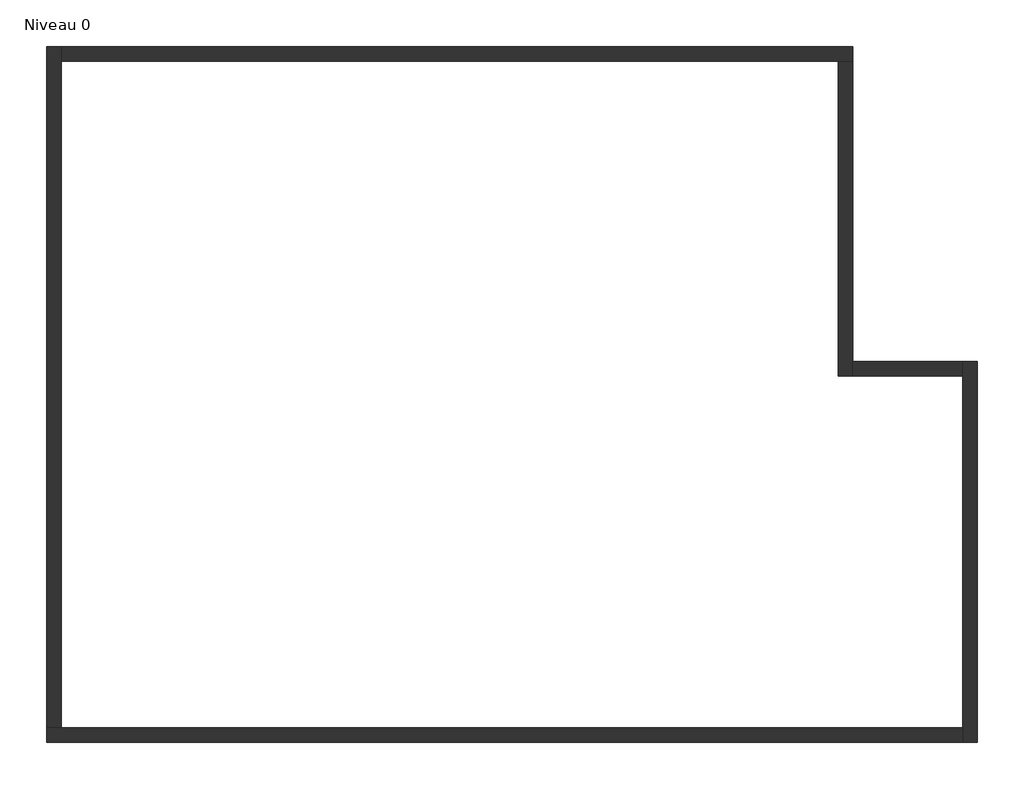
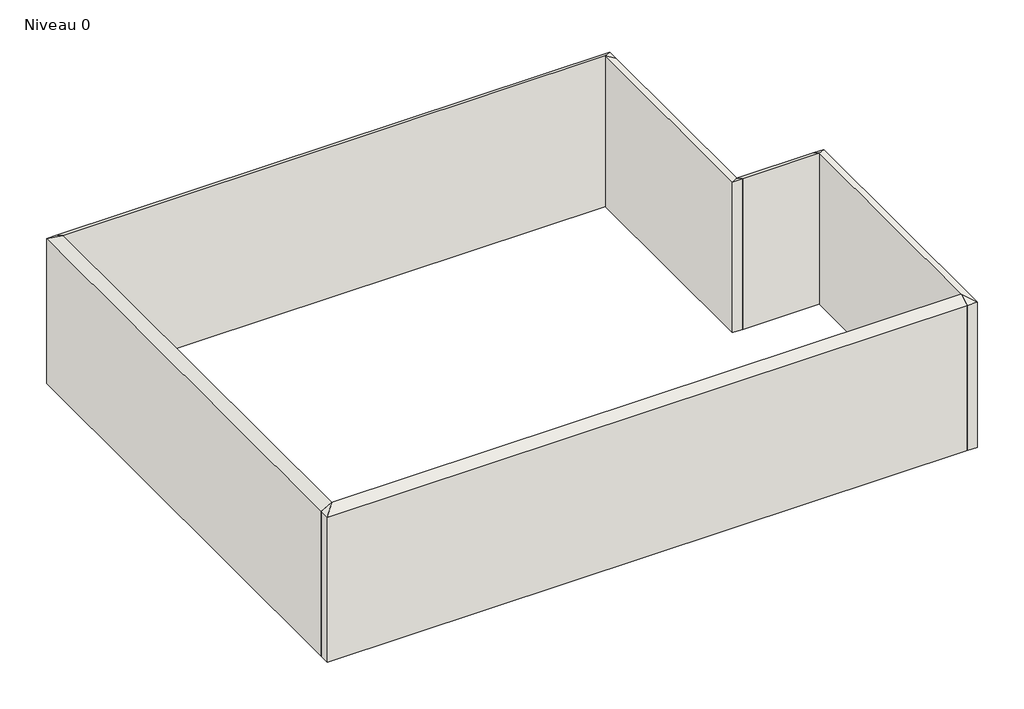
# One storey: 6 walls.
"""IFC4 building model written with IfcOpenShell, lengths in millimetres."""

from ifc_helpers import new_model, si_unit, frame, origin, place, context, project, spatial, polyline, outline, extrude, faceted_brep, element, save

model = new_model("IFC4")

# Units and contexts
model_context = context("Model", 3, world=origin())
ifc_project = project(units=[si_unit("LENGTHUNIT", "METRE", prefix="MILLI")], contexts=[model_context])

# Site, building, storey
site = spatial("IfcSite", under=ifc_project)
building = spatial("IfcBuilding", under=site)
storey = spatial("IfcBuildingStorey", under=building, Name="Niveau 0", Elevation=0.0)

# Walls
placement = place(None, origin())
element("IfcWall", 1, ObjectType="Générique - Ext. 200 mm", at=placement, inside=storey, context=model_context, shape_type="Brep", body=[
    faceted_brep([(-12601.7237534, -2962.5958127, 0.0), (-101.7237534, -2962.5958127, 0.0), (-101.7237534, -2962.5958127, 3000.0), (-12601.7237534, -2962.5958127, 3000.0), (-12601.7237534, -2762.5958127, 0.0), (-12601.7237534, -2762.5958127, 3000.0), (-12401.7237534, -2762.5958127, 3115.4700538), (-101.7237534, -2762.5958127, 3115.4700538), (-101.7237534, -2762.5958127, 0.0), (-12401.7237534, -2762.5958127, 0.0)], [[[0, 1, 2, 3]], [[4, 5, 6, 7, 8, 9]], [[1, 0, 4, 9, 8]], [[0, 3, 5, 4]], [[2, 1, 8, 7]], [[3, 2, 7, 6]], [[6, 5, 3]]]),
])
element("IfcWall", 2, ObjectType="Générique - Ext. 200 mm", at=placement, inside=storey, context=model_context, shape_type="Brep", body=[
    faceted_brep([(-12601.7237534, 6537.4041873, 0.0), (-12601.7237534, -2762.5958127, 0.0), (-12601.7237534, -2762.5958127, 3000.0), (-12601.7237534, 6537.4041873, 3000.0), (-12401.7237534, 6537.4041873, 0.0), (-12401.7237534, 6537.4041873, 3000.0), (-12401.7237534, 6337.4041873, 3115.4700538), (-12401.7237534, -2762.5958127, 3115.4700538), (-12401.7237534, -2762.5958127, 0.0), (-12401.7237534, 6337.4041873, 0.0)], [[[0, 1, 2, 3]], [[4, 5, 6, 7, 8, 9]], [[1, 0, 4, 9, 8]], [[0, 3, 5, 4]], [[2, 1, 8, 7]], [[3, 2, 7, 6]], [[6, 5, 3]]]),
])
element("IfcWall", 3, ObjectType="Générique - Ext. 200 mm", at=placement, inside=storey, context=model_context, shape_type="Brep", body=[
    faceted_brep([(-1601.7237534, 6537.4041873, 0.0), (-12401.7237534, 6537.4041873, 0.0), (-12401.7237534, 6537.4041873, 3000.0), (-1601.7237534, 6537.4041873, 3000.0), (-1601.7237534, 6337.4041873, 0.0), (-1601.7237534, 6337.4041873, 3000.0), (-1801.7237534, 6337.4041873, 3115.4700538), (-12401.7237534, 6337.4041873, 3115.4700538), (-12401.7237534, 6337.4041873, 0.0), (-1801.7237534, 6337.4041873, 0.0)], [[[0, 1, 2, 3]], [[4, 5, 6, 7, 8, 9]], [[1, 0, 4, 9, 8]], [[2, 1, 8, 7]], [[0, 3, 5, 4]], [[3, 2, 7, 6]], [[6, 5, 3]]]),
])
element("IfcWall", 4, ObjectType="Générique - Ext. 200 mm", at=placement, inside=storey, context=model_context, shape_type="Brep", body=[
    faceted_brep([(98.2762466, -2962.5958127, 0.0), (98.2762466, 2237.4041873, 0.0), (98.2762466, 2237.4041873, 3000.0), (98.2762466, -2962.5958127, 3000.0), (-101.7237534, -2962.5958127, 0.0), (-101.7237534, -2962.5958127, 3000.0), (-101.7237534, -2762.5958127, 3115.4700538), (-101.7237534, 2037.4041873, 3115.4700538), (-101.7237534, 2237.4041873, 3000.0), (-101.7237534, 2237.4041873, 0.0), (-101.7237534, 2037.4041873, 0.0), (-101.7237534, -2762.5958127, 0.0)], [[[0, 1, 2, 3]], [[4, 5, 6, 7, 8, 9, 10, 11]], [[1, 0, 4, 11, 10, 9]], [[0, 3, 5, 4]], [[2, 1, 9, 8]], [[3, 2, 7, 6]], [[2, 8, 7]], [[6, 5, 3]]]),
])
element("IfcWall", 5, ObjectType="Générique - Ext. 200 mm", at=placement, inside=storey, context=model_context, shape_type="Brep", body=[
    faceted_brep([(-1801.7237534, 6337.4041873, 0.0), (-1801.7237534, 2037.4041873, 0.0), (-1801.7237534, 2037.4041873, 3115.4700538), (-1801.7237534, 6337.4041873, 3115.4700538), (-1601.7237534, 6337.4041873, 0.0), (-1601.7237534, 6337.4041873, 3000.0), (-1601.7237534, 2237.4041873, 3000.0), (-1601.7237534, 2037.4041873, 3115.4700538), (-1601.7237534, 2037.4041873, 0.0), (-1601.7237534, 2237.4041873, 0.0)], [[[0, 1, 2, 3]], [[4, 5, 6, 7, 8, 9]], [[1, 0, 4, 9, 8]], [[2, 1, 8, 7]], [[0, 3, 5, 4]], [[3, 2, 6, 5]], [[2, 7, 6]]]),
])
element("IfcWall", 6, ObjectType="Générique - Ext. 200 mm", at=placement, inside=storey, context=model_context, shape_type="SweptSolid", body=[
    extrude(outline(polyline([(2037.4041873, 0.0), (2037.4041873, 3115.4700538), (2237.4041873, 3000.0), (2237.4041873, 0.0), (2037.4041873, 0.0)])), frame((-1601.7237534, 0.0, 0.0), z_axis=(1.0, 0.0, 0.0), x_axis=(0.0, 1.0, 0.0)), (0.0, 0.0, 1.0), 1500.0),
])

save(model, "model.ifc")
